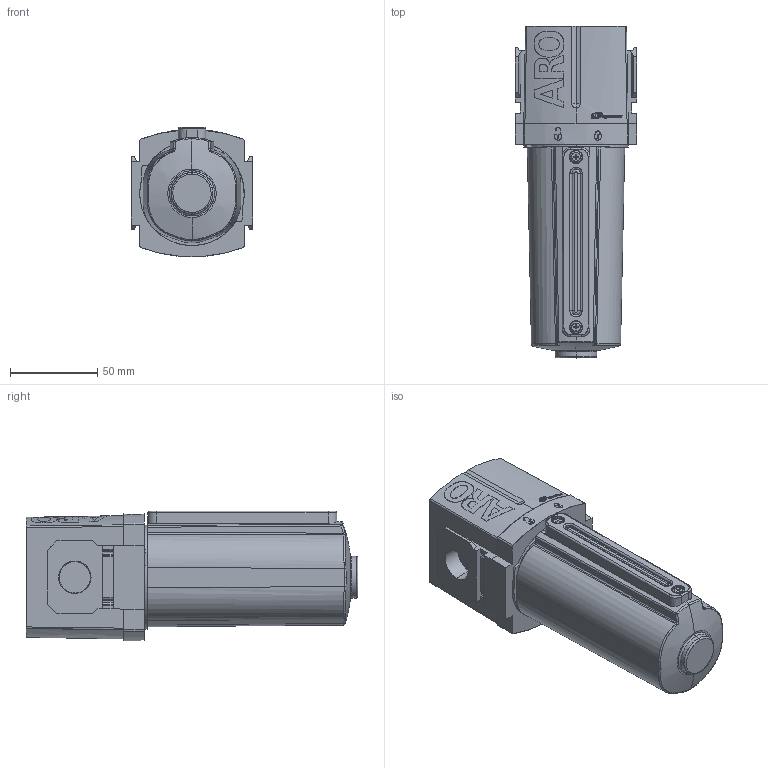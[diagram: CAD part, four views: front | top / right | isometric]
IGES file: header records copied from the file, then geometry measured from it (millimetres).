
Global section: file name: C:\Documents and Settings\szeedyk\Desktop\F353XX-X1X_01.igs; native system: NX V4.0; preprocessor: UGS NX IGES V4.0; date: 20090205.101552; units: inch
Bounding box: 70 x 190.73 x 74.5 mm (x, y, z)
Surface area: 52500.1 mm2 (no closed solid volume)
Topology: 0 solids, 0 shells, 842 faces, 4914 edges, 4914 vertices
Faces by surface type: bspline 842
